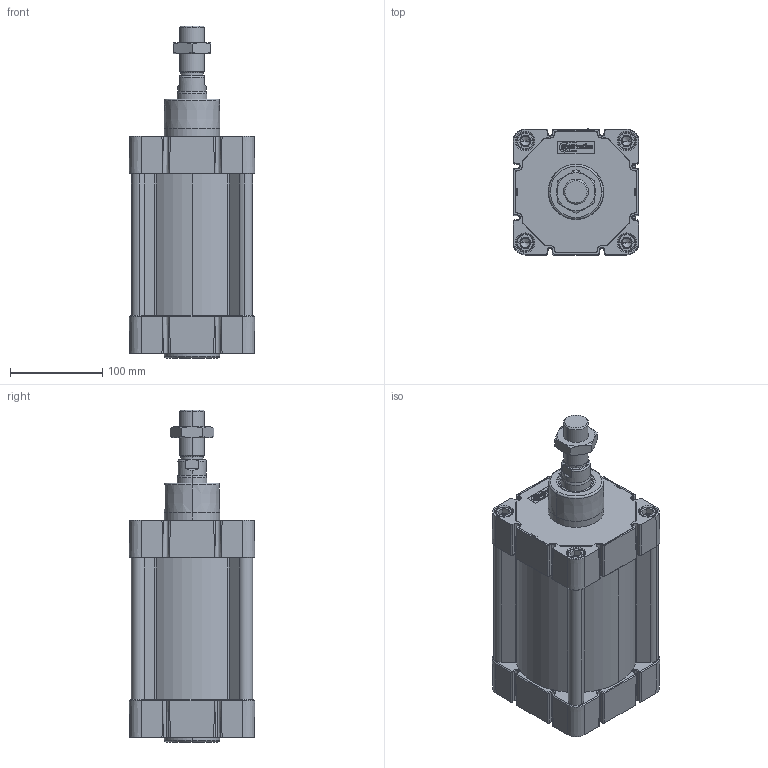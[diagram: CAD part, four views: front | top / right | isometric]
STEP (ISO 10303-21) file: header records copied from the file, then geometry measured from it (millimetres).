
FILE_DESCRIPTION (( 'STEP AP214' ), '1' );
FILE_NAME ('E11M21250075.STEP', '2021-10-29T09:00:25', ( '' ), ( '' ), 'SwSTEP 2.0', 'SolidWorks 2016', '' );
FILE_SCHEMA (( 'AUTOMOTIVE_DESIGN' ));
Length unit declared in the file: millimetre
Products named in the file (7): TP Ø125 ISO 15552 WEB; 21.G01.0000_21.G01.0075; Pistone Ø125 ISO 15552; E11M21250075; TA Ø125 ISO 15552 WEB; 000.536.7_000.536.0075; 21.754.0
Assembly tree (6 placements, depth 2):
  E11M21250075
    TP Ø125 ISO 15552 WEB
    TA Ø125 ISO 15552 WEB
    21.754.0
    21.G01.0000_21.G01.0075
    Pistone Ø125 ISO 15552
    000.536.7_000.536.0075
Bounding box: 135.91 x 135.95 x 359 mm (x, y, z)
Volume: 2295076.1 mm3; surface area: 632200 mm2
Topology: 17 solids, 21 shells, 2502 faces, 6443 edges, 4029 vertices
Faces by surface type: plane 991, cylinder 705, bspline 365, cone 312, torus 96, sphere 33
Entity records: 116283 total; most frequent: CARTESIAN_POINT 32829, ORIENTED_EDGE 12750, DIRECTION 11490, EDGE_CURVE 6375, AXIS2_PLACEMENT_3D 4112, VERTEX_POINT 4029, LINE 3266, VECTOR 3266
